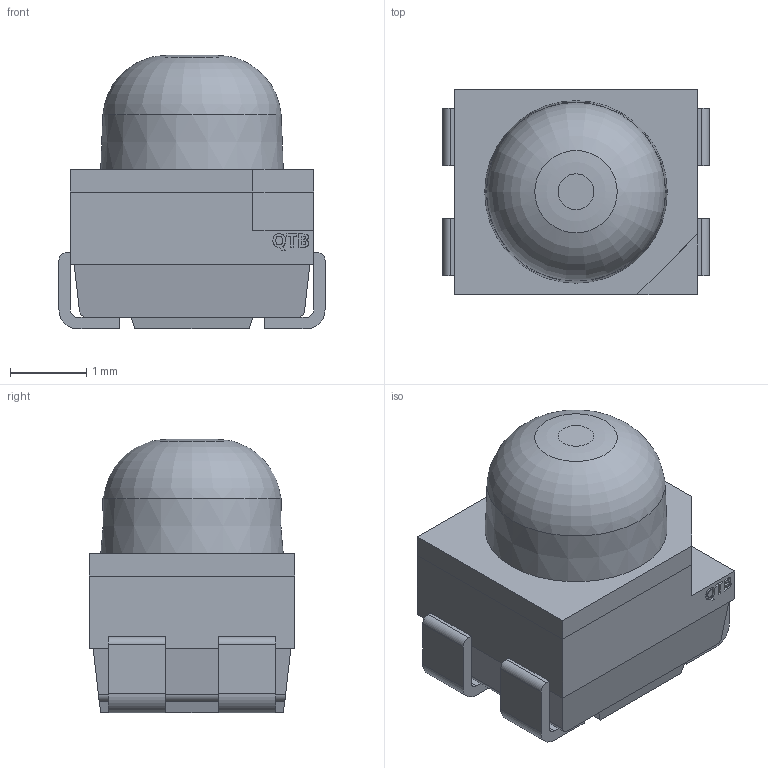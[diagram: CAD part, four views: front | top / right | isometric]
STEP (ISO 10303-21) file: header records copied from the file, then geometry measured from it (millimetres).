
FILE_DESCRIPTION(/* description */ (''),/* implementation_level */ '2;1');
FILE_NAME(/* name */ '5fab11df1c17e90e8914fde2',/* time_stamp */ '2020-11-10T22:19:12+00:00',/* author */ (''),/* organization */ (''),/* preprocessor_version */ 'ST-DEVELOPER v16.7',/* originating_system */ $,/* authorisation */ $);
FILE_SCHEMA (('AUTOMOTIVE_DESIGN {1 0 10303 214 3 1 1}'));
Length unit declared in the file: metre
Products named in the file (5): QBLP677AD&BD; Part 1; Part 3; Part 4; Part 2
Assembly tree (4 placements, depth 2):
  QBLP677AD&BD
    Part 1
    Part 3
    Part 4
    Part 2
Bounding box: 3.5 x 2.7 x 3.6 mm (x, y, z)
Volume: 22.7 mm3; surface area: 102.6 mm2
Topology: 4 solids, 4 shells, 148 faces, 393 edges, 256 vertices
Faces by surface type: plane 98, bspline 29, cylinder 16, cone 3, torus 2
Full cylindrical faces by diameter (mm): 0.4 x1, 1 x1
Entity records: 4733 total; most frequent: CARTESIAN_POINT 1112, ORIENTED_EDGE 770, DIRECTION 618, EDGE_CURVE 385, LINE 284, VECTOR 284, VERTEX_POINT 255, AXIS2_PLACEMENT_3D 167
